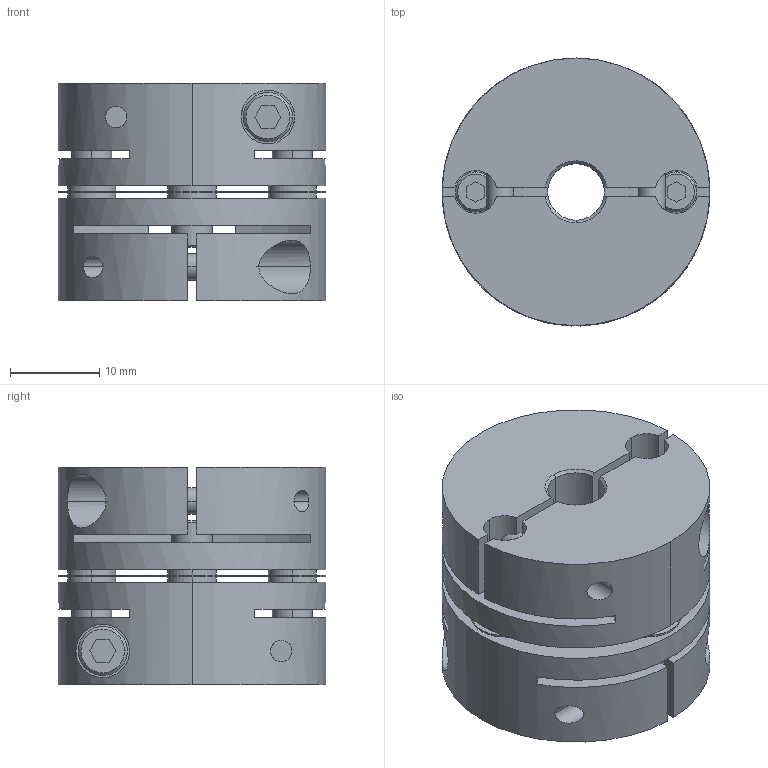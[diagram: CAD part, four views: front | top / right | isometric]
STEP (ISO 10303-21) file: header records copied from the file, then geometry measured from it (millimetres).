
FILE_DESCRIPTION((''),'2;1');
FILE_NAME('LAS-30C-6.35×11.stp','2015-10-14T15:20:19',(''),(''),'AutoCAD STEP 2000i','AutoCAD 2000i',', , ');
FILE_SCHEMA(('CONFIG_CONTROL_DESIGN'));
Length unit declared in the file: millimetre
Products named in the file (6): LAS-30C-6×10; 忣兜1; LA-3002-D10; LA-3002-D06-1; LA-3002-D06; LAS30-ITA
Assembly tree (5 placements, depth 2):
  LAS-30C-6×10
    忣兜1
    LA-3002-D10
    LA-3002-D06-1
    LA-3002-D06
    LAS30-ITA
Bounding box: 30 x 30 x 24.4 mm (x, y, z)
Volume: 13048 mm3; surface area: 9159.9 mm2
Topology: 1 solids, 1 shells, 240 faces, 636 edges, 416 vertices
Faces by surface type: plane 112, cylinder 100, cone 28
Entity records: 8333 total; most frequent: CARTESIAN_POINT 2034, DIRECTION 1316, ORIENTED_EDGE 1272, EDGE_CURVE 636, AXIS2_PLACEMENT_3D 482, VERTEX_POINT 416, VECTOR 352, LINE 352
